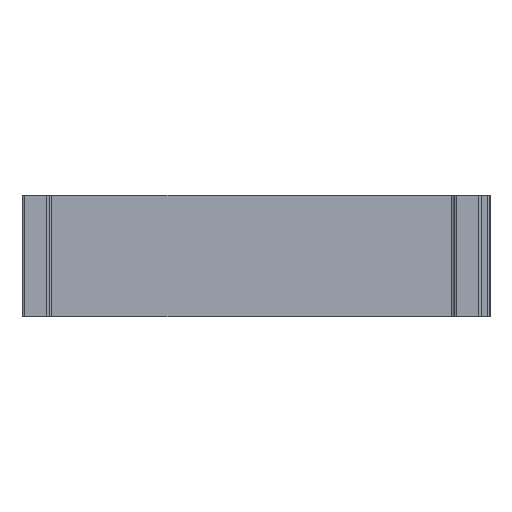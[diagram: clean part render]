
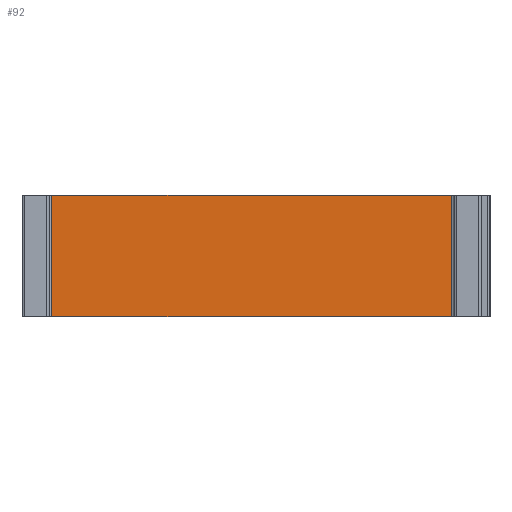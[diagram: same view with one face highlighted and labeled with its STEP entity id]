
A CAD part, left-side view. The second image highlights one B-rep face of the part: STEP entity #92.
In plain terms, the highlighted planar face has unit normal (-1, 0, 0).
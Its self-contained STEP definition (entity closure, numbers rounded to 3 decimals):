
#92=ADVANCED_FACE('',(#176),#1448,.T.);
#176=FACE_OUTER_BOUND('',#264,.T.);
#264=EDGE_LOOP('',(#571,#572,#573,#574));
#571=ORIENTED_EDGE('',*,*,#925,.T.);
#572=ORIENTED_EDGE('',*,*,#926,.T.);
#573=ORIENTED_EDGE('',*,*,#927,.F.);
#574=ORIENTED_EDGE('',*,*,#923,.F.);
#923=EDGE_CURVE('',#1357,#1358,#1163,.T.);
#925=EDGE_CURVE('',#1357,#1359,#1165,.T.);
#926=EDGE_CURVE('',#1359,#1360,#1166,.T.);
#927=EDGE_CURVE('',#1358,#1360,#1167,.T.);
#1163=(
BOUNDED_CURVE()
B_SPLINE_CURVE(1,(#2470,#2471),.UNSPECIFIED.,.F.,.F.)
B_SPLINE_CURVE_WITH_KNOTS((2,2),(0.,70.),.UNSPECIFIED.)
CURVE()
GEOMETRIC_REPRESENTATION_ITEM()
RATIONAL_B_SPLINE_CURVE((1.,1.))
REPRESENTATION_ITEM('')
);
#1165=(
BOUNDED_CURVE()
B_SPLINE_CURVE(2,(#2475,#2476,#2477),.UNSPECIFIED.,.F.,.F.)
B_SPLINE_CURVE_WITH_KNOTS((3,3),(-7388.391,-7153.391),
 .UNSPECIFIED.)
CURVE()
GEOMETRIC_REPRESENTATION_ITEM()
RATIONAL_B_SPLINE_CURVE((1.,1.,1.))
REPRESENTATION_ITEM('')
);
#1166=(
BOUNDED_CURVE()
B_SPLINE_CURVE(1,(#2478,#2479),.UNSPECIFIED.,.F.,.F.)
B_SPLINE_CURVE_WITH_KNOTS((2,2),(0.,70.),.UNSPECIFIED.)
CURVE()
GEOMETRIC_REPRESENTATION_ITEM()
RATIONAL_B_SPLINE_CURVE((1.,1.))
REPRESENTATION_ITEM('')
);
#1167=(
BOUNDED_CURVE()
B_SPLINE_CURVE(2,(#2480,#2481,#2482),.UNSPECIFIED.,.F.,.F.)
B_SPLINE_CURVE_WITH_KNOTS((3,3),(-7388.391,-7153.391),
 .UNSPECIFIED.)
CURVE()
GEOMETRIC_REPRESENTATION_ITEM()
RATIONAL_B_SPLINE_CURVE((1.,1.,1.))
REPRESENTATION_ITEM('')
);
#1357=VERTEX_POINT('',#2351);
#1358=VERTEX_POINT('',#2352);
#1359=VERTEX_POINT('',#2353);
#1360=VERTEX_POINT('',#2354);
#1448=PLANE('',#1552);
#1552=AXIS2_PLACEMENT_3D('',#2222,#1599,$);
#1599=DIRECTION('',(-1.,0.,0.));
#2222=CARTESIAN_POINT('',(13019.963,-8527.386,0.));
#2351=CARTESIAN_POINT('',(13019.963,-8527.386,0.));
#2352=CARTESIAN_POINT('',(13019.963,-8527.386,70.));
#2353=CARTESIAN_POINT('',(13019.963,-8758.035,0.));
#2354=CARTESIAN_POINT('',(13019.963,-8758.035,70.));
#2470=CARTESIAN_POINT('',(13019.963,-8527.386,0.));
#2471=CARTESIAN_POINT('',(13019.963,-8527.386,70.));
#2475=CARTESIAN_POINT('',(13019.963,-8527.386,0.));
#2476=CARTESIAN_POINT('',(13019.963,-8642.71,0.));
#2477=CARTESIAN_POINT('',(13019.963,-8758.035,0.));
#2478=CARTESIAN_POINT('',(13019.963,-8758.035,0.));
#2479=CARTESIAN_POINT('',(13019.963,-8758.035,70.));
#2480=CARTESIAN_POINT('',(13019.963,-8527.386,70.));
#2481=CARTESIAN_POINT('',(13019.963,-8642.71,70.));
#2482=CARTESIAN_POINT('',(13019.963,-8758.035,70.));
